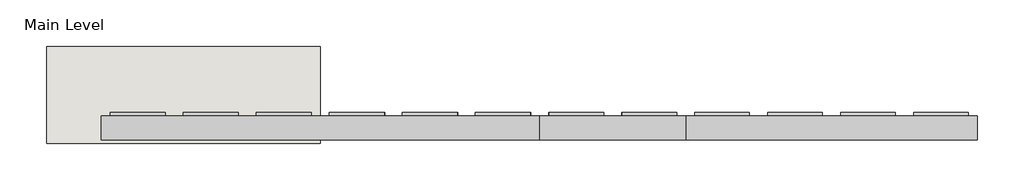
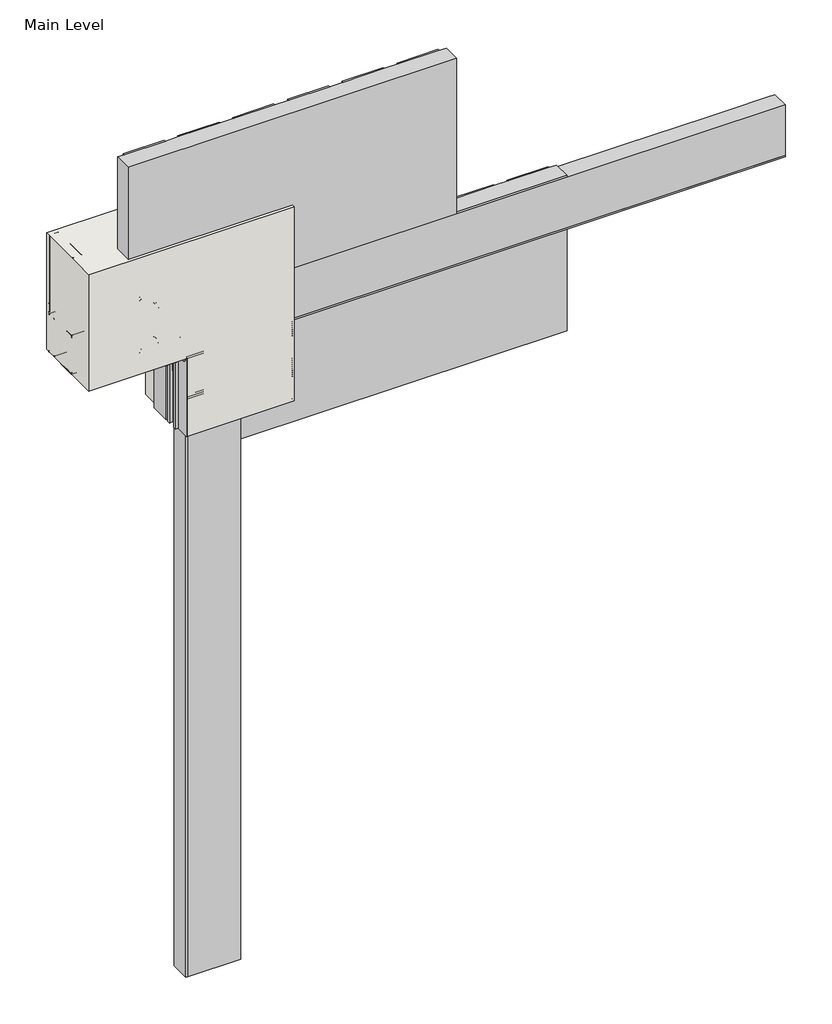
# One storey, incomplete: 24 proxies, 1 wall.
"""IFC4 building model written with IfcOpenShell, lengths in millimetres."""

from ifc_helpers import new_model, si_unit, frame, origin, place, context, project, spatial, polyline, outline, extrude, transform, mapped, element, save
from components import generic_models_31547c53, generic_models_0795693d, generic_models_cb092f88, generic_models_04f31e3c, generic_models_08e6521c, generic_models_d28646c3, generic_models_8c792c9c, proxy_215900e5, proxy_6a3b431c, proxy_4c3b85e5, finish_coat_filler_finish_coat_filler_f99f7fa1, masonry_sill_masonry_sill_12063642, masonry_sill1_masonry_sill_6295a482, masonry_sill2_masonry_sill_ae5a4ad6, proxy_a3fd9b0b, proxy_3a0ad636, proxy_0073da47, sealant_sealant_3a8dd322, window_header_window_header_abd4ef46, wood_blocking_5320d369

model = new_model("IFC4")

# Units and contexts
model_context = context("Model", 3, world=origin())
ifc_project = project(units=[si_unit("LENGTHUNIT", "METRE", prefix="MILLI")], contexts=[model_context])

# Site, building, storey
site = spatial("IfcSite", under=ifc_project)
building = spatial("IfcBuilding", under=site)
storey = spatial("IfcBuildingStorey", under=building, Name="Main Level", Elevation=0.0)

# Proxies
placement = place(None, origin())
generic_models_shape = generic_models_31547c53(model_context)
element("IfcBuildingElementProxy", 1, Name="Durabond Generic Model Sealant Vent : Durabond Generic Model Sealant Vent", ObjectType="Durabond Generic Model Sealant Vent : Durabond Generic Model Sealant Vent", at=placement, inside=storey, context=model_context, shape_type="MappedRepresentation", body=[
    mapped(generic_models_shape, transform((26800.7195523, 547.6393211, 304.2607023), x_axis=(1.0, 0.0, 0.0), y_axis=(0.0, 0.08715574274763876, -0.9961946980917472), z_axis=(0.0, 0.9961946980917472, 0.08715574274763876))),
])
generic_models_2_shape = generic_models_0795693d(model_context)
generic_models_3_shape = generic_models_cb092f88(model_context)
generic_models_4_shape = generic_models_04f31e3c(model_context)
generic_models_5_shape = generic_models_08e6521c(model_context)
element("IfcBuildingElementProxy", 2, Name="CRAi Generic Model Mesh Piece Face Based : CRAi Generic Model Mesh Piece Face Based", ObjectType="CRAi Generic Model Mesh Piece Face Based : CRAi Generic Model Mesh Piece Face Based", at=placement, inside=storey, context=model_context, shape_type="MappedRepresentation", body=[
    mapped(generic_models_2_shape, transform((27054.3226773, 541.9066297, 155.3366797), x_axis=(-1.0, 0.0, 0.0), y_axis=(0.0, 0.0, -1.0), z_axis=(0.0, -1.0, 0.0))),
    mapped(generic_models_3_shape, transform((27054.3226773, 541.9066297, 155.3366797), x_axis=(-1.0, 0.0, 0.0), y_axis=(0.0, 0.0, -1.0), z_axis=(0.0, -1.0, 0.0))),
    mapped(generic_models_4_shape, transform((27054.3226773, 541.9066297, 155.3366797), x_axis=(-1.0, 0.0, 0.0), y_axis=(0.0, 0.0, -1.0), z_axis=(0.0, -1.0, 0.0))),
    mapped(generic_models_5_shape, transform((27054.3226773, 541.9066297, 155.3366797), x_axis=(-1.0, 0.0, 0.0), y_axis=(0.0, 0.0, -1.0), z_axis=(0.0, -1.0, 0.0))),
])
generic_models_6_shape = generic_models_d28646c3(model_context)
element("IfcBuildingElementProxy", 3, Name="CRAi Generic Model Line Based Drip Deflector : CRAi Generic Model Line Based Drip Deflector", ObjectType="CRAi Generic Model Line Based Drip Deflector : CRAi Generic Model Line Based Drip Deflector", at=placement, inside=storey, context=model_context, shape_type="MappedRepresentation", body=[
    mapped(generic_models_6_shape, transform((26855.8851773, 541.5329375, 295.758643), x_axis=(0.0, 0.996194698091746, 0.08715574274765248), y_axis=(-1.0, 0.0, 0.0), z_axis=(0.0, -0.08715574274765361, 0.996194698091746))),
])
generic_models_7_shape = generic_models_8c792c9c(model_context)
element("IfcBuildingElementProxy", 4, Name="Durabond Generic Model Screw w Standard Wall Plate : Durabond Generic Model Screw w Standard Wall Plate", ObjectType="Durabond Generic Model Screw w Standard Wall Plate : Durabond Generic Model Screw w Standard Wall Plate", at=placement, inside=storey, context=model_context, shape_type="MappedRepresentation", body=[
    mapped(generic_models_7_shape, transform((26692.3726773, 547.4628797, 380.874222), x_axis=(1.0, 0.0, 0.0), y_axis=(0.0, 0.0, 1.0), z_axis=(0.0, -1.0, 0.0))),
])
element("IfcBuildingElementProxy", 5, Name="Durabond Generic Model Screw w Standard Wall Plate : Durabond Generic Model Screw w Standard Wall Plate", ObjectType="Durabond Generic Model Screw w Standard Wall Plate : Durabond Generic Model Screw w Standard Wall Plate", at=placement, inside=storey, context=model_context, shape_type="MappedRepresentation", body=[
    mapped(generic_models_7_shape, transform((26743.1726773, 544.2878797, 412.687111), x_axis=(1.0, 0.0, 0.0), y_axis=(0.0, 0.0, 1.0), z_axis=(0.0, -1.0, 0.0))),
])
element("IfcBuildingElementProxy", 6, Name="Durabond Generic Model Screw w Standard Wall Plate : Durabond Generic Model Screw w Standard Wall Plate", ObjectType="Durabond Generic Model Screw w Standard Wall Plate : Durabond Generic Model Screw w Standard Wall Plate", at=placement, inside=storey, context=model_context, shape_type="MappedRepresentation", body=[
    mapped(generic_models_7_shape, transform((26743.1726773, 544.2878797, 552.387111), x_axis=(1.0, 0.0, 0.0), y_axis=(0.0, 0.0, 1.0), z_axis=(0.0, -1.0, 0.0))),
])
element("IfcBuildingElementProxy", 7, Name="Durabond Generic Model Screw w Standard Wall Plate : Durabond Generic Model Screw w Standard Wall Plate", ObjectType="Durabond Generic Model Screw w Standard Wall Plate : Durabond Generic Model Screw w Standard Wall Plate", at=placement, inside=storey, context=model_context, shape_type="MappedRepresentation", body=[
    mapped(generic_models_7_shape, transform((26692.3726773, 547.4628797, 584.074222), x_axis=(1.0, 0.0, 0.0), y_axis=(0.0, 0.0, 1.0), z_axis=(0.0, -1.0, 0.0))),
])
proxy_shape = proxy_215900e5(model_context)
element("IfcBuildingElementProxy", 8, Name="Durabond Generic Model Insulite Select Extruded Insulation Board : 3\"", ObjectType="Durabond Generic Model Insulite Select Extruded Insulation Board : 3\"", at=placement, inside=storey, context=model_context, shape_type="MappedRepresentation", body=[
    mapped(proxy_shape, transform((27251.1726773, 624.4566297, 819.024222), x_axis=(1.0, 0.0, 0.0), y_axis=(0.0, 0.0, 1.0), z_axis=(0.0, -1.0, 0.0))),
])
element("IfcBuildingElementProxy", 9, Name="Durabond Generic Model Insulite Select Extruded Insulation Board : 3\"", ObjectType="Durabond Generic Model Insulite Select Extruded Insulation Board : 3\"", at=placement, inside=storey, context=model_context, shape_type="MappedRepresentation", body=[
    mapped(proxy_shape, transform((27659.1601773, 624.4566297, 217.361722), x_axis=(1.0, 0.0, 0.0), y_axis=(0.0, 0.0, 1.0), z_axis=(0.0, -1.0, 0.0))),
])
proxy_2_shape = proxy_6a3b431c(model_context)
element("IfcBuildingElementProxy", 10, Name="Durabond Generic Model Insulite Select Extruded Vent Board : 3\"", ObjectType="Durabond Generic Model Insulite Select Extruded Vent Board : 3\"", at=placement, inside=storey, context=model_context, shape_type="MappedRepresentation", body=[
    mapped(proxy_2_shape, transform((27860.7726773, 624.4566297, 412.624222), x_axis=(1.0, 0.0, 0.0), y_axis=(0.0, 0.0, 1.0), z_axis=(0.0, -1.0, 0.0))),
])
proxy_3_shape = proxy_4c3b85e5(model_context)
element("IfcBuildingElementProxy", 11, Name="Durabond Generic Model Insulite Select Boundary Board : 3\"", ObjectType="Durabond Generic Model Insulite Select Boundary Board : 3\"", at=placement, inside=storey, context=model_context, shape_type="MappedRepresentation", body=[
    mapped(proxy_3_shape, transform((26957.4851773, 624.4566297, -908.175778), x_axis=(0.0, 0.0, -1.0), y_axis=(1.0, 0.0, 0.0), z_axis=(0.0, -1.0, 0.0))),
])
finish_coat_filler_finish_coat_filler_shape = finish_coat_filler_finish_coat_filler_f99f7fa1(model_context)
element("IfcBuildingElementProxy", 12, Name="Finish Coat Filler : Finish Coat Filler", ObjectType="Finish Coat Filler : Finish Coat Filler", at=placement, inside=storey, context=model_context, shape_type="MappedRepresentation", body=[
    mapped(finish_coat_filler_finish_coat_filler_shape, transform((0.0, 0.0, 0.0), x_axis=(1.0, 0.0, 0.0), y_axis=(0.0, 1.0, 0.0), z_axis=(0.0, 0.0, 1.0))),
])
masonry_sill_masonry_sill_shape = masonry_sill_masonry_sill_12063642(model_context)
element("IfcBuildingElementProxy", 13, Name="Masonry Sill : Masonry Sill", ObjectType="Masonry Sill : Masonry Sill", at=placement, inside=storey, context=model_context, shape_type="MappedRepresentation", body=[
    mapped(masonry_sill_masonry_sill_shape, transform((0.0, 0.0, 0.0), x_axis=(1.0, 0.0, 0.0), y_axis=(0.0, 1.0, 0.0), z_axis=(0.0, 0.0, 1.0))),
])
masonry_sill1_masonry_sill_shape = masonry_sill1_masonry_sill_6295a482(model_context)
element("IfcBuildingElementProxy", 14, Name="Masonry Sill1 : Masonry Sill", ObjectType="Masonry Sill1 : Masonry Sill", at=placement, inside=storey, context=model_context, shape_type="MappedRepresentation", body=[
    mapped(masonry_sill1_masonry_sill_shape, transform((0.0, 0.0, 0.0), x_axis=(1.0, 0.0, 0.0), y_axis=(0.0, 1.0, 0.0), z_axis=(0.0, 0.0, 1.0))),
])
masonry_sill2_masonry_sill_shape = masonry_sill2_masonry_sill_ae5a4ad6(model_context)
element("IfcBuildingElementProxy", 15, Name="Masonry Sill2 : Masonry Sill", ObjectType="Masonry Sill2 : Masonry Sill", at=placement, inside=storey, context=model_context, shape_type="MappedRepresentation", body=[
    mapped(masonry_sill2_masonry_sill_shape, transform((0.0, 0.0, 0.0), x_axis=(1.0, 0.0, 0.0), y_axis=(0.0, 1.0, 0.0), z_axis=(0.0, 0.0, 1.0))),
])
proxy_4_shape = proxy_a3fd9b0b(model_context)
element("IfcBuildingElementProxy", 16, Name="CRAi Generic Model Metal Stud : Metal Framing Stud - 1\" x 3.5\"", ObjectType="CRAi Generic Model Metal Stud : Metal Framing Stud - 1\" x 3.5\"", at=placement, inside=storey, context=model_context, shape_type="MappedRepresentation", body=[
    mapped(proxy_4_shape, transform((26876.5226773, 726.0566297, 0.0), x_axis=(1.0, 0.0, 0.0), y_axis=(0.0, 1.0, 0.0), z_axis=(0.0, 0.0, 1.0))),
])
proxy_5_shape = proxy_3a0ad636(model_context)
element("IfcBuildingElementProxy", 17, Name="CRAi Generic Model Metal Stud : Metal Framing Stud - 1\" x 3.5\"", ObjectType="CRAi Generic Model Metal Stud : Metal Framing Stud - 1\" x 3.5\"", at=placement, inside=storey, context=model_context, shape_type="MappedRepresentation", body=[
    mapped(proxy_5_shape, transform((26508.2226773, 719.7066297, 0.0), x_axis=(-1.0, 0.0, 0.0), y_axis=(0.0, -1.0, 0.0), z_axis=(0.0, 0.0, 1.0))),
])
element("IfcBuildingElementProxy", 18, Name="CRAi Generic Model Metal Stud : Metal Framing Stud - 1\" x 3.5\"", ObjectType="CRAi Generic Model Metal Stud : Metal Framing Stud - 1\" x 3.5\"", at=placement, inside=storey, context=model_context, shape_type="MappedRepresentation", body=[
    mapped(proxy_5_shape, transform((26876.5226773, 719.7066297, 0.0), x_axis=(-1.0, 0.0, 0.0), y_axis=(0.0, -1.0, 0.0), z_axis=(0.0, 0.0, 1.0))),
])
proxy_6_shape = proxy_0073da47(model_context)
element("IfcBuildingElementProxy", 19, Name="CRAi Generic Model Metal Stud : Metal Framing Stud - 1\" x 3.5\"", ObjectType="CRAi Generic Model Metal Stud : Metal Framing Stud - 1\" x 3.5\"", at=placement, inside=storey, context=model_context, shape_type="MappedRepresentation", body=[
    mapped(proxy_6_shape, transform((26914.6226773, 719.7066297, 0.0), x_axis=(1.0, 0.0, 0.0), y_axis=(0.0, 1.0, 0.0), z_axis=(0.0, 0.0, 1.0))),
])
sealant_sealant_shape = sealant_sealant_3a8dd322(model_context)
element("IfcBuildingElementProxy", 20, Name="Sealant : Sealant", ObjectType="Sealant : Sealant", at=placement, inside=storey, context=model_context, shape_type="MappedRepresentation", body=[
    mapped(sealant_sealant_shape, transform((0.0, 0.0, 0.0), x_axis=(1.0, 0.0, 0.0), y_axis=(0.0, 1.0, 0.0), z_axis=(0.0, 0.0, 1.0))),
])
window_header_window_header_shape = window_header_window_header_abd4ef46(model_context)
element("IfcBuildingElementProxy", 21, Name="Window Header : Window Header", ObjectType="Window Header : Window Header", at=placement, inside=storey, context=model_context, shape_type="MappedRepresentation", body=[
    mapped(window_header_window_header_shape, transform((0.0, -6.35, 0.0), x_axis=(1.0, 0.0, 0.0), y_axis=(0.0, 1.0, 0.0), z_axis=(0.0, 0.0, 1.0))),
])
wood_blocking_shape = wood_blocking_5320d369(model_context)
element("IfcBuildingElementProxy", 22, Name="CRAi Generic Model Line Based Metal Framing Track : Wood Blocking", ObjectType="CRAi Generic Model Line Based Metal Framing Track : Wood Blocking", at=placement, inside=storey, context=model_context, shape_type="MappedRepresentation", body=[
    mapped(wood_blocking_shape, transform((26489.1726773, 643.5066297, 304.8), x_axis=(1.0, 0.0, 0.0), y_axis=(0.0, 1.0, 0.0), z_axis=(0.0, 0.0, 1.0))),
])
element("IfcBuildingElementProxy", 23, Name="CRAi Generic Model Line Based Metal Framing Track : Wood Blocking", ObjectType="CRAi Generic Model Line Based Metal Framing Track : Wood Blocking", at=placement, inside=storey, context=model_context, shape_type="MappedRepresentation", body=[
    mapped(wood_blocking_shape, transform((26489.1726773, 795.907101, 457.2), x_axis=(1.0, 0.0, 0.0), y_axis=(0.0, -1.0, 0.0), z_axis=(0.0, 0.0, -1.0))),
])
element("IfcBuildingElementProxy", 24, Name="CRAi Generic Model Line Based Metal Framing Track : Wood Blocking", ObjectType="CRAi Generic Model Line Based Metal Framing Track : Wood Blocking", at=placement, inside=storey, context=model_context, shape_type="MappedRepresentation", body=[
    mapped(wood_blocking_shape, transform((26489.1726773, 643.5066297, 457.2), x_axis=(1.0, 0.0, 0.0), y_axis=(0.0, 1.0, 0.0), z_axis=(0.0, 0.0, 1.0))),
])

# Wall
element("IfcWall", 25, ObjectType="189mm (7.5”) EIFS Field Applied on Mtl. Stud Layer - 50mm Grooved Insulation Board Metal Stud Wall(AirStop) 2", at=placement, inside=storey, context=model_context, shape_type="SweptSolid", body=[
    extrude(outline(polyline([(0.0, 27251.1726773), (762.0, 27251.1726773), (762.0, 26489.1726773), (304.8, 26489.1726773), (304.8, 26857.4726773), (0.0, 26857.4726773), (0.0, 27251.1726773)])), frame((0.0, 538.7316297, 0.0), z_axis=(0.0, 1.0, 0.0), x_axis=(0.0, 0.0, 1.0)), (0.0, 0.0, 1.0), 269.875),
])

save(model, "model.ifc")
